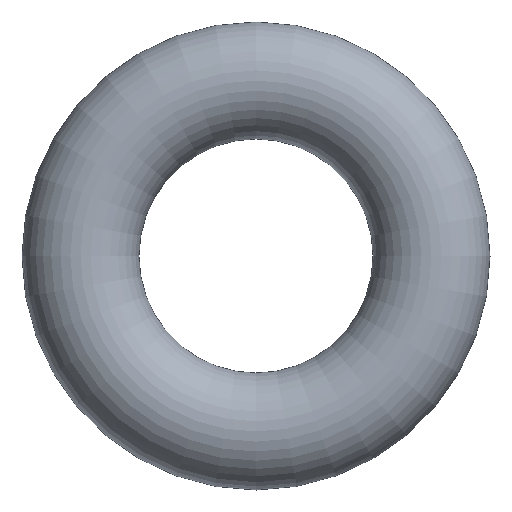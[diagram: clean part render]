
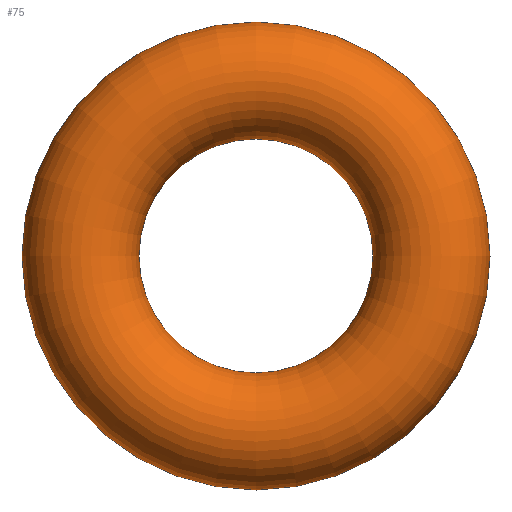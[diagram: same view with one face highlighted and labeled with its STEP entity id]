
A CAD part, front view. The second image highlights one B-rep face of the part: STEP entity #75.
In plain terms, the highlighted toroidal (fillet/blend) face has major radius 3.75 mm and minor radius 1.25 mm.
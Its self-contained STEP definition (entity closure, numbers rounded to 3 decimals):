
#75 = ADVANCED_FACE( '', ( #77 ), #78, .T. );
#77 = FACE_BOUND( '', #79, .T. );
#78 = TOROIDAL_SURFACE( '', #80, 3.75, 1.25 );
#79 = VERTEX_LOOP( '', #81 );
#80 = AXIS2_PLACEMENT_3D( '', #82, #83, #84 );
#81 = VERTEX_POINT( '', #85 );
#82 = CARTESIAN_POINT( '', ( 0., 0., 0. ) );
#83 = DIRECTION( '', ( 0., -1., 0. ) );
#84 = DIRECTION( '', ( 0., 0., -1. ) );
#85 = CARTESIAN_POINT( '', ( 0., 0., -5. ) );
